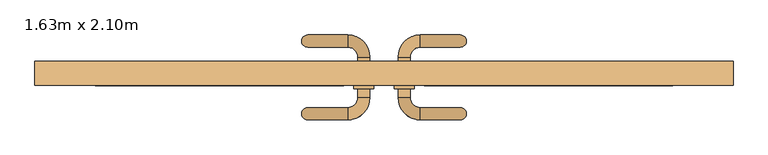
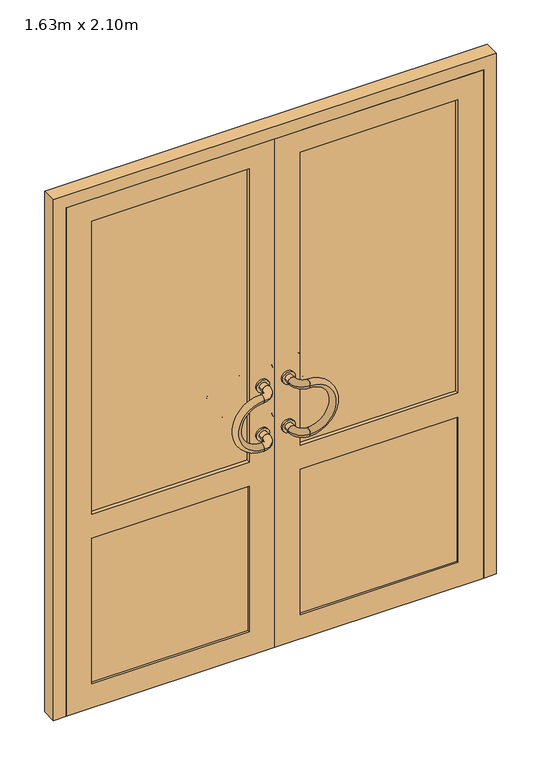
"""IFC4 building model written with IfcOpenShell, lengths in millimetres: door geometry, PVC Double - Panneaux vitrés haut : 1.63m x 2.10m."""

import ifcopenshell
import ifcopenshell.guid

model = None  # the IFC model being written
_history = None  # IfcOwnerHistory: only IFC2X3 demands one
_inside = {}  # id of a spatial element -> (the spatial element, [elements in it])
_under = {}  # id of a project, library or spatial element -> (it, [spatial elements below it])
_declared = {}  # id of a project -> (the project, [libraries it declares])
_typed = {}  # id of a type object -> (the type object, [elements of that type])
_made_of = {}  # id of a material, layer set ... -> (it, [elements and type objects made of it])


def new_model(schema):
    """Start an empty IFC model of exactly this schema.

    Asked for "IFC4X3", IfcOpenShell would pick the latest addendum, in which some entities
    have other attributes; the version numbers below select the first issue.
    IFC2X3 requires an IfcOwnerHistory on every rooted entity: one is made here for all.
    """
    global model, _history
    if schema == "IFC4X3":
        model = ifcopenshell.file(schema_version=(4, 3, 0, 0))
    else:
        model = ifcopenshell.file(schema=schema)
    _inside.clear()
    _under.clear()
    _declared.clear()
    _typed.clear()
    _made_of.clear()
    _history = None
    if model.schema == "IFC2X3":
        org = make("IfcOrganization", Name="unknown")
        user = make(
            "IfcPersonAndOrganization",
            ThePerson=make("IfcPerson", FamilyName="unknown"),
            TheOrganization=org,
        )
        app = make(
            "IfcApplication",
            ApplicationDeveloper=org,
            Version="unknown",
            ApplicationFullName="unknown",
            ApplicationIdentifier="unknown",
        )
        _history = make(
            "IfcOwnerHistory",
            OwningUser=user,
            OwningApplication=app,
            ChangeAction="ADDED",
            CreationDate=0,
        )
    return model


def make(cls, **values):
    """One entity of the class cls with the attributes given. An attribute that is None is left unset."""
    return model.create_entity(
        cls, **{name: value for name, value in values.items() if value is not None}
    )


def rooted(cls, **values):
    """An entity with a GlobalId (a new one), such as an element, a storey or a relation."""
    return make(cls, GlobalId=ifcopenshell.guid.new(), OwnerHistory=_history, **values)


def si_unit(unit_type, name, prefix=None):
    """IfcSIUnit, for example si_unit("LENGTHUNIT", "METRE", prefix="MILLI")."""
    return make("IfcSIUnit", UnitType=unit_type, Prefix=prefix, Name=name)


def assignment(units):
    """IfcUnitAssignment: the units of a project."""
    return None if units is None else make("IfcUnitAssignment", Units=units)


def point(xyz):
    """IfcCartesianPoint."""
    return None if xyz is None else make("IfcCartesianPoint", Coordinates=xyz)


def direction(xyz):
    """IfcDirection."""
    return None if xyz is None else make("IfcDirection", DirectionRatios=xyz)


def frame(location, z_axis=None, x_axis=None):
    """IfcAxis2Placement3D, a coordinate frame: its origin and axes. An axis left out is left unset."""
    return make(
        "IfcAxis2Placement3D",
        Location=point(location),
        Axis=direction(z_axis),
        RefDirection=direction(x_axis),
    )


def frame_2d(location, x_axis=None):
    """IfcAxis2Placement2D, a coordinate frame in the plane: its origin and x axis."""
    return make(
        "IfcAxis2Placement2D", Location=point(location), RefDirection=direction(x_axis)
    )


def origin():
    """The frame at (0, 0, 0) with its axes left unset."""
    return frame((0.0, 0.0, 0.0))


def place(relative_to, where):
    """IfcLocalPlacement: puts the frame where relative to a parent placement (None: the world)."""
    return make(
        "IfcLocalPlacement", PlacementRelTo=relative_to, RelativePlacement=where
    )


def context(
    kind, dimensions, precision=None, world=None, true_north=None, identifier=None
):
    """IfcGeometricRepresentationContext, for example the 3D "Model" context."""
    return make(
        "IfcGeometricRepresentationContext",
        ContextIdentifier=identifier,
        ContextType=kind,
        CoordinateSpaceDimension=dimensions,
        Precision=precision,
        WorldCoordinateSystem=world,
        TrueNorth=true_north,
    )


def project(units=None, contexts=None):
    """IfcProject with its units and contexts."""
    return rooted(
        "IfcProject",
        Name="project",
        RepresentationContexts=contexts,
        UnitsInContext=assignment(units),
    )


def spatial(cls, under=None, at=None, **own):
    """A site, building, storey or space (cls), placed at a placement, below another one or the project."""
    s = rooted(cls, ObjectPlacement=at, **own)
    if under is not None:
        _under.setdefault(under.id(), (under, []))[1].append(s)
    return s


def polyline(points):
    """IfcPolyline through the points."""
    return make("IfcPolyline", Points=[point(p) for p in points])


def circle_curve(where, radius):
    """IfcCircle in the frame where."""
    return make("IfcCircle", Position=where, Radius=radius)


def ellipse_curve(where, semi_axis1, semi_axis2):
    """IfcEllipse in the frame where."""
    return make(
        "IfcEllipse", Position=where, SemiAxis1=semi_axis1, SemiAxis2=semi_axis2
    )


def trimmed(basis, trim1, trim2, sense, master):
    """IfcTrimmedCurve: the piece of a basis curve between two trims."""
    return make(
        "IfcTrimmedCurve",
        BasisCurve=basis,
        Trim1=trim1,
        Trim2=trim2,
        SenseAgreement=sense,
        MasterRepresentation=master,
    )


def segment(curve, same_sense, transition):
    """IfcCompositeCurveSegment."""
    return make(
        "IfcCompositeCurveSegment",
        Transition=transition,
        SameSense=same_sense,
        ParentCurve=curve,
    )


def composite_curve(segments, self_intersect=None):
    """IfcCompositeCurve: segments joined end to end."""
    return make("IfcCompositeCurve", Segments=segments, SelfIntersect=self_intersect)


def outline(outer, holes=None, kind="AREA"):
    """IfcArbitraryClosedProfileDef: a profile drawn as a closed curve; with holes, ...WithVoids."""
    if holes is None:
        return make("IfcArbitraryClosedProfileDef", ProfileType=kind, OuterCurve=outer)
    return make(
        "IfcArbitraryProfileDefWithVoids",
        ProfileType=kind,
        OuterCurve=outer,
        InnerCurves=holes,
    )


def extrude(swept, where, along, depth):
    """IfcExtrudedAreaSolid: the profile swept, set in the frame where, extruded along a direction by depth."""
    return make(
        "IfcExtrudedAreaSolid",
        SweptArea=swept,
        Position=where,
        ExtrudedDirection=direction(along),
        Depth=depth,
    )


def faces_of(points, faces, orient=None, outer=None):
    """IfcFace entities. A face is a list of loops; a loop is a list of indices into points, from 0.

    orient and outer hold one flag for each loop. By default every Orientation is true, the
    first loop of a face is its IfcFaceOuterBound and the others are IfcFaceBound.
    """
    made = []
    for i, loops in enumerate(faces):
        bounds = []
        for j, loop in enumerate(loops):
            is_outer = j == 0 if outer is None else outer[i][j]
            bounds.append(
                make(
                    "IfcFaceOuterBound" if is_outer else "IfcFaceBound",
                    Bound=make("IfcPolyLoop", Polygon=[points[k] for k in loop]),
                    Orientation=True if orient is None else orient[i][j],
                )
            )
        made.append(make("IfcFace", Bounds=bounds))
    return made


def faceted_brep(points, faces, orient=None, outer=None, voids=None):
    """IfcFacetedBrep: a solid bounded by flat faces; with voids (closed shells), ...WithVoids."""
    shared = [point(p) for p in points]
    hull = make("IfcClosedShell", CfsFaces=faces_of(shared, faces, orient, outer))
    if voids is None:
        return make("IfcFacetedBrep", Outer=hull)
    return make(
        "IfcFacetedBrepWithVoids",
        Outer=hull,
        Voids=[
            make(cls, CfsFaces=faces_of(shared, fs, o, b)) for cls, fs, o, b in voids
        ],
    )


def shape(context_of_items, identifier, shape_type, items):
    """IfcShapeRepresentation: the items that make up one representation, for example the "Body"."""
    return make(
        "IfcShapeRepresentation",
        ContextOfItems=context_of_items,
        RepresentationIdentifier=identifier,
        RepresentationType=shape_type,
        Items=items,
    )


def source(mapping_origin, context_of_items, identifier, shape_type, items):
    """IfcRepresentationMap: a shape defined once, which mapped items show again and again."""
    return make(
        "IfcRepresentationMap",
        MappingOrigin=mapping_origin,
        MappedRepresentation=shape(context_of_items, identifier, shape_type, items),
    )


def transform(
    local_origin,
    x_axis=None,
    y_axis=None,
    z_axis=None,
    scale=None,
    scale2=None,
    scale3=None,
    uniform=True,
):
    """IfcCartesianTransformationOperator3D, or its non-uniform kind. x_axis, y_axis, z_axis: its Axis1, 2, 3."""
    if uniform:
        return make(
            "IfcCartesianTransformationOperator3D",
            Axis1=direction(x_axis),
            Axis2=direction(y_axis),
            LocalOrigin=point(local_origin),
            Scale=scale,
            Axis3=direction(z_axis),
        )
    return make(
        "IfcCartesianTransformationOperator3DnonUniform",
        Axis1=direction(x_axis),
        Axis2=direction(y_axis),
        LocalOrigin=point(local_origin),
        Scale=scale,
        Axis3=direction(z_axis),
        Scale2=scale2,
        Scale3=scale3,
    )


def mapped(mapping_source, mapping_target):
    """IfcMappedItem: shows the shape of a source again, moved by a transform."""
    return make(
        "IfcMappedItem", MappingSource=mapping_source, MappingTarget=mapping_target
    )


def made_of(thing, what):
    """Note that an element or type object is made of a material, layer set ...; save() writes the relation."""
    if what is not None:
        _made_of.setdefault(what.id(), (what, []))[1].append(thing)
    return thing


def element(
    cls,
    number,
    at=None,
    inside=None,
    cuts=None,
    type_object=None,
    material=None,
    context=None,
    identifier="Body",
    shape_type=None,
    held_by="IfcProductDefinitionShape",
    body=None,
    shapes=None,
    **own,
):
    """One element of the class cls, such as IfcWall. Its Tag is "e" and its number.

    at: its placement. inside: the storey or other place that contains it. cuts: it is an
    opening in that element (IfcRelVoidsElement). A single representation is given by context,
    identifier, shape_type and body (its items); several are given by shapes. held_by: the class
    of the entity that holds the representations. save() writes the other relations.
    """
    e = rooted(cls, Tag="e%d" % number, ObjectPlacement=at, **own)
    if body is not None:
        shapes = [shape(context, identifier, shape_type, body)]
    if shapes is not None:
        e.Representation = make(held_by, Representations=shapes)
    if inside is not None:
        _inside.setdefault(inside.id(), (inside, []))[1].append(e)
    if cuts is not None:
        rooted(
            "IfcRelVoidsElement", RelatingBuildingElement=cuts, RelatedOpeningElement=e
        )
    if type_object is not None:
        _typed.setdefault(type_object.id(), (type_object, []))[1].append(e)
    return made_of(e, material)


def aggregate(whole, parts):
    """IfcRelAggregates: a whole, such as a stair, and the parts it consists of."""
    return rooted("IfcRelAggregates", RelatingObject=whole, RelatedObjects=parts)


def save(model, path):
    """Write the relations noted so far, then the file.

    IfcRelAggregates (storeys below a building ...), IfcRelContainedInSpatialStructure (elements
    in a storey), IfcRelDefinesByType, IfcRelAssociatesMaterial and IfcRelDeclares: one each for
    every whole, place, type object, material and project.
    """
    for whole, parts in _under.values():
        aggregate(whole, parts)
    for where, things in _inside.values():
        rooted(
            "IfcRelContainedInSpatialStructure",
            RelatedElements=things,
            RelatingStructure=where,
        )
    for kind, things in _typed.values():
        rooted("IfcRelDefinesByType", RelatedObjects=things, RelatingType=kind)
    for what, things in _made_of.values():
        rooted("IfcRelAssociatesMaterial", RelatedObjects=things, RelatingMaterial=what)
    for by, libraries in _declared.values():
        rooted("IfcRelDeclares", RelatingContext=by, RelatedDefinitions=libraries)
    model.write(path)


def plane_surface(at):
    """IfcPlane: the flat surface through the origin of the frame at, square to its z axis."""
    return make("IfcPlane", Position=at)


def revolved_surface(curve, axis_point, axis_direction):
    """IfcSurfaceOfRevolution: the curve turned about the line through axis_point along axis_direction."""
    return make(
        "IfcSurfaceOfRevolution",
        SweptCurve=make("IfcArbitraryOpenProfileDef", ProfileType="CURVE", Curve=curve),
        AxisPosition=make("IfcAxis1Placement", Location=point(axis_point), Axis=direction(axis_direction)),
    )


def advanced_brep(points, edges, surfaces, faces):
    """IfcAdvancedBrep: a solid bounded by faces that lie on surfaces and meet in shared edges.

    An edge is (start, end): straight between two places in points (the first is 0);
    or (start, end, curve); or (start, end, curve, False) where it runs against its curve.
    A face is (place in surfaces, loops), or (place, loops, False) where it looks against
    its surface's normal. A loop lists edges by number (the first is 1), with a minus sign
    where the edge is run from its end to its start. The first loop is the outer one.
    """
    corners = [point(p) for p in points]
    vertices = [make("IfcVertexPoint", VertexGeometry=c) for c in corners]
    made = []
    for start, end, *more in edges:
        made.append(
            make(
                "IfcEdgeCurve",
                EdgeStart=vertices[start],
                EdgeEnd=vertices[end],
                EdgeGeometry=more[0] if more else make("IfcPolyline", Points=[corners[start], corners[end]]),
                SameSense=more[1] if len(more) > 1 else True,
            )
        )
    hull = []
    for where, loops, *sense in faces:
        bounds = []
        for j, loop in enumerate(loops):
            ring = [make("IfcOrientedEdge", EdgeElement=made[abs(k) - 1], Orientation=k > 0) for k in loop]
            bounds.append(
                make(
                    "IfcFaceOuterBound" if j == 0 else "IfcFaceBound",
                    Bound=make("IfcEdgeLoop", EdgeList=ring),
                    Orientation=True,
                )
            )
        hull.append(make("IfcAdvancedFace", Bounds=bounds, FaceSurface=surfaces[where], SameSense=sense[0] if sense else True))
    return make("IfcAdvancedBrep", Outer=make("IfcClosedShell", CfsFaces=hull))


def door_1_63m_x_2_10m_9fa24bd7(model_context):
    return source(origin(), model_context, "Body", "SolidModel", [
        extrude(outline(composite_curve([segment(trimmed(circle_curve(frame_2d((1100.0, -50.0)), 25.0), [point((1100.0, -25.0))], [point((1100.0, -75.0))], False, "CARTESIAN"), True, "CONTINUOUS"), segment(trimmed(circle_curve(frame_2d((1100.0, -50.0)), 25.0), [point((1100.0, -75.0))], [point((1100.0, -25.0))], False, "CARTESIAN"), True, "CONTINUOUS")], self_intersect=False), holes=[composite_curve([segment(trimmed(circle_curve(frame_2d((1100.0, -50.0)), 15.0), [point((1100.0, -35.0))], [point((1100.0, -65.0))], True, "CARTESIAN"), True, "CONTINUOUS"), segment(trimmed(circle_curve(frame_2d((1100.0, -50.0)), 15.0), [point((1100.0, -65.0))], [point((1100.0, -35.0))], True, "CARTESIAN"), True, "CONTINUOUS")], self_intersect=False)]), frame((0.0, -95.0, 0.0), z_axis=(0.0, 1.0, 0.0), x_axis=(0.0, 0.0, 1.0)), (0.0, 0.0, 1.0), 8.0),
        extrude(outline(composite_curve([segment(trimmed(circle_curve(frame_2d((900.0, -50.0)), 25.0), [point((900.0, -25.0))], [point((900.0, -75.0))], False, "CARTESIAN"), True, "CONTINUOUS"), segment(trimmed(circle_curve(frame_2d((900.0, -50.0)), 25.0), [point((900.0, -75.0))], [point((900.0, -25.0))], False, "CARTESIAN"), True, "CONTINUOUS")], self_intersect=False), holes=[composite_curve([segment(trimmed(circle_curve(frame_2d((900.0, -50.0)), 15.0), [point((900.0, -35.0))], [point((900.0, -65.0))], True, "CARTESIAN"), True, "CONTINUOUS"), segment(trimmed(circle_curve(frame_2d((900.0, -50.0)), 15.0), [point((900.0, -65.0))], [point((900.0, -35.0))], True, "CARTESIAN"), True, "CONTINUOUS")], self_intersect=False)]), frame((0.0, -95.0, 0.0), z_axis=(0.0, 1.0, 0.0), x_axis=(0.0, 0.0, 1.0)), (0.0, 0.0, 1.0), 8.0),
        extrude(outline(composite_curve([segment(trimmed(circle_curve(frame_2d((1100.0, -50.0)), 25.0), [point((1100.0, -25.0))], [point((1100.0, -75.0))], False, "CARTESIAN"), True, "CONTINUOUS"), segment(trimmed(circle_curve(frame_2d((1100.0, -50.0)), 25.0), [point((1100.0, -75.0))], [point((1100.0, -25.0))], False, "CARTESIAN"), True, "CONTINUOUS")], self_intersect=False), holes=[composite_curve([segment(trimmed(circle_curve(frame_2d((1100.0, -50.0)), 15.0), [point((1100.0, -35.0))], [point((1100.0, -65.0))], True, "CARTESIAN"), True, "CONTINUOUS"), segment(trimmed(circle_curve(frame_2d((1100.0, -50.0)), 15.0), [point((1100.0, -65.0))], [point((1100.0, -35.0))], True, "CARTESIAN"), True, "CONTINUOUS")], self_intersect=False)]), frame((0.0, -143.0, 0.0), z_axis=(0.0, 1.0, 0.0), x_axis=(0.0, 0.0, 1.0)), (0.0, 0.0, 1.0), 8.0),
        extrude(outline(composite_curve([segment(trimmed(circle_curve(frame_2d((900.0, -50.0)), 25.0), [point((900.0, -25.0))], [point((900.0, -75.0))], False, "CARTESIAN"), True, "CONTINUOUS"), segment(trimmed(circle_curve(frame_2d((900.0, -50.0)), 25.0), [point((900.0, -75.0))], [point((900.0, -25.0))], False, "CARTESIAN"), True, "CONTINUOUS")], self_intersect=False), holes=[composite_curve([segment(trimmed(circle_curve(frame_2d((900.0, -50.0)), 15.0), [point((900.0, -35.0))], [point((900.0, -65.0))], True, "CARTESIAN"), True, "CONTINUOUS"), segment(trimmed(circle_curve(frame_2d((900.0, -50.0)), 15.0), [point((900.0, -65.0))], [point((900.0, -35.0))], True, "CARTESIAN"), True, "CONTINUOUS")], self_intersect=False)]), frame((0.0, -143.0, 0.0), z_axis=(0.0, 1.0, 0.0), x_axis=(0.0, 0.0, 1.0)), (0.0, 0.0, 1.0), 8.0),
        advanced_brep(
        [(-90.0, -10.0, 1100.0), (-90.0, -40.0, 1100.0), (-90.0, -10.0, 900.0), (-90.0, -40.0, 900.0)],
        [
            (0, 1, circle_curve(frame((-90.0, -25.0, 1100.0), z_axis=(1.0, 0.0, 0.0), x_axis=(0.0, -1.0, 0.0)), 15.0)),
            (1, 0, circle_curve(frame((-90.0, -25.0, 1100.0), z_axis=(1.0, 0.0, 0.0), x_axis=(0.0, -1.0, 0.0)), 15.0)),
            (2, 3, circle_curve(frame((-90.0, -25.0, 900.0), z_axis=(1.0, 0.0, 0.0), x_axis=(0.0, -1.0, 0.0)), 15.0)),
            (3, 2, circle_curve(frame((-90.0, -25.0, 900.0), z_axis=(1.0, 0.0, 0.0), x_axis=(0.0, -1.0, 0.0)), 15.0)),
            (2, 0, circle_curve(frame((-90.0, -10.0, 1000.0), z_axis=(0.0, 1.0, 0.0), x_axis=(0.0, 0.0, 1.0)), 100.0)),
            (1, 3, circle_curve(frame((-90.0, -40.0, 1000.0), z_axis=(0.0, -1.0, 0.0), x_axis=(0.0, 0.0, 1.0)), 100.0)),
        ],
        [
            plane_surface(frame((-90.0, -25.0, 1000.0), z_axis=(1.0, 0.0, 0.0), x_axis=(0.0, 0.0, 1.0))),
            plane_surface(frame((-90.0, -25.0, 1000.0), z_axis=(1.0, 0.0, 0.0), x_axis=(0.0, 0.0, -1.0))),
            revolved_surface(trimmed(ellipse_curve(frame((-90.0, -25.0, 1100.0), z_axis=(-1.0, 0.0, 0.0), x_axis=(0.0, -1.0, 0.0)), 15.0, 15.0), [point((-90.0, -10.0, 1100.0))], [point((-90.0, -40.0, 1100.0))], True, "CARTESIAN"), (-90.0, -25.0, 1000.0), (0.0, 1.0, 0.0)),
            revolved_surface(trimmed(ellipse_curve(frame((-90.0, -25.0, 1100.0), z_axis=(-1.0, 0.0, 0.0), x_axis=(0.0, -1.0, 0.0)), 15.0, 15.0), [point((-90.0, -40.0, 1100.0))], [point((-90.0, -10.0, 1100.0))], True, "CARTESIAN"), (-90.0, -25.0, 1000.0), (0.0, 1.0, 0.0)),
        ],
        [
            (0, [[1, 2]]),
            (1, [[3, 4]]),
            (2, [[-3, 5, -2, 6]]),
            (3, [[-4, -6, -1, -5]]),
        ],
    ),
        advanced_brep(
        [(-65.0, -65.0, 1100.0), (-35.0, -65.0, 1100.0), (-90.0, -40.0, 1100.0), (-90.0, -10.0, 1100.0)],
        [
            (0, 1, circle_curve(frame((-50.0, -65.0, 1100.0), z_axis=(0.0, -1.0, 0.0), x_axis=(1.0, 0.0, 0.0)), 15.0)),
            (1, 0, circle_curve(frame((-50.0, -65.0, 1100.0), z_axis=(0.0, -1.0, 0.0), x_axis=(1.0, 0.0, 0.0)), 15.0)),
            (2, 3, circle_curve(frame((-90.0, -25.0, 1100.0), z_axis=(-1.0, 0.0, 0.0), x_axis=(0.0, 1.0, 0.0)), 15.0)),
            (3, 2, circle_curve(frame((-90.0, -25.0, 1100.0), z_axis=(-1.0, 0.0, 0.0), x_axis=(0.0, 1.0, 0.0)), 15.0)),
            (2, 0, circle_curve(frame((-90.0, -65.0, 1100.0), z_axis=(0.0, 0.0, -1.0), x_axis=(1.0, 0.0, 0.0)), 25.0)),
            (1, 3, circle_curve(frame((-90.0, -65.0, 1100.0), z_axis=(0.0, 0.0, 1.0), x_axis=(1.0, 0.0, 0.0)), 55.0)),
        ],
        [
            plane_surface(frame((-90.0, -65.0, 1100.0), z_axis=(0.0, -1.0, 0.0), x_axis=(1.0, 0.0, 0.0))),
            plane_surface(frame((-90.0, -65.0, 1100.0), z_axis=(-1.0, 0.0, 0.0), x_axis=(0.0, 1.0, 0.0))),
            revolved_surface(trimmed(ellipse_curve(frame((-50.0, -65.0, 1100.0), z_axis=(0.0, 1.0, 0.0), x_axis=(1.0, 0.0, 0.0)), 15.0, 15.0), [point((-65.0, -65.0, 1100.0))], [point((-35.0, -65.0, 1100.0))], True, "CARTESIAN"), (-90.0, -65.0, 1100.0), (0.0, 0.0, -1.0)),
            revolved_surface(trimmed(ellipse_curve(frame((-50.0, -65.0, 1100.0), z_axis=(0.0, 1.0, 0.0), x_axis=(1.0, 0.0, 0.0)), 15.0, 15.0), [point((-35.0, -65.0, 1100.0))], [point((-65.0, -65.0, 1100.0))], True, "CARTESIAN"), (-90.0, -65.0, 1100.0), (0.0, 0.0, -1.0)),
        ],
        [
            (0, [[1, 2]]),
            (1, [[3, 4]]),
            (2, [[-3, 5, -2, 6]]),
            (3, [[-4, -6, -1, -5]]),
        ],
    ),
        advanced_brep(
        [(-65.0, -65.0, 900.0), (-35.0, -65.0, 900.0), (-90.0, -40.0, 900.0), (-90.0, -10.0, 900.0)],
        [
            (0, 1, circle_curve(frame((-50.0, -65.0, 900.0), z_axis=(0.0, -1.0, 0.0), x_axis=(1.0, 0.0, 0.0)), 15.0)),
            (1, 0, circle_curve(frame((-50.0, -65.0, 900.0), z_axis=(0.0, -1.0, 0.0), x_axis=(1.0, 0.0, 0.0)), 15.0)),
            (2, 3, circle_curve(frame((-90.0, -25.0, 900.0), z_axis=(-1.0, 0.0, 0.0), x_axis=(0.0, 1.0, 0.0)), 15.0)),
            (3, 2, circle_curve(frame((-90.0, -25.0, 900.0), z_axis=(-1.0, 0.0, 0.0), x_axis=(0.0, 1.0, 0.0)), 15.0)),
            (2, 0, circle_curve(frame((-90.0, -65.0, 900.0), z_axis=(0.0, 0.0, -1.0), x_axis=(1.0, 0.0, 0.0)), 25.0)),
            (1, 3, circle_curve(frame((-90.0, -65.0, 900.0), z_axis=(0.0, 0.0, 1.0), x_axis=(1.0, 0.0, 0.0)), 55.0)),
        ],
        [
            plane_surface(frame((-90.0, -65.0, 1100.0), z_axis=(0.0, -1.0, 0.0), x_axis=(1.0, 0.0, 0.0))),
            plane_surface(frame((-90.0, -65.0, 1100.0), z_axis=(-1.0, 0.0, 0.0), x_axis=(0.0, 1.0, 0.0))),
            revolved_surface(trimmed(ellipse_curve(frame((-50.0, -65.0, 900.0), z_axis=(0.0, 1.0, 0.0), x_axis=(1.0, 0.0, 0.0)), 15.0, 15.0), [point((-65.0, -65.0, 900.0))], [point((-35.0, -65.0, 900.0))], True, "CARTESIAN"), (-90.0, -65.0, 1100.0), (0.0, 0.0, -1.0)),
            revolved_surface(trimmed(ellipse_curve(frame((-50.0, -65.0, 900.0), z_axis=(0.0, 1.0, 0.0), x_axis=(1.0, 0.0, 0.0)), 15.0, 15.0), [point((-35.0, -65.0, 900.0))], [point((-65.0, -65.0, 900.0))], True, "CARTESIAN"), (-90.0, -65.0, 1100.0), (0.0, 0.0, -1.0)),
        ],
        [
            (0, [[1, 2]]),
            (1, [[3, 4]]),
            (2, [[-3, 5, -2, 6]]),
            (3, [[-4, -6, -1, -5]]),
        ],
    ),
        extrude(outline(composite_curve([segment(trimmed(circle_curve(frame_2d((1100.0, -50.0)), 15.0), [point((1100.0, -35.0))], [point((1100.0, -65.0))], False, "CARTESIAN"), True, "CONTINUOUS"), segment(trimmed(circle_curve(frame_2d((1100.0, -50.0)), 15.0), [point((1100.0, -65.0))], [point((1100.0, -35.0))], False, "CARTESIAN"), True, "CONTINUOUS")], self_intersect=False)), frame((0.0, -95.0, 0.0), z_axis=(0.0, 1.0, 0.0), x_axis=(0.0, 0.0, 1.0)), (0.0, 0.0, 1.0), 30.0),
        extrude(outline(composite_curve([segment(trimmed(circle_curve(frame_2d((900.0, -50.0)), 15.0), [point((900.0, -35.0))], [point((900.0, -65.0))], False, "CARTESIAN"), True, "CONTINUOUS"), segment(trimmed(circle_curve(frame_2d((900.0, -50.0)), 15.0), [point((900.0, -65.0))], [point((900.0, -35.0))], False, "CARTESIAN"), True, "CONTINUOUS")], self_intersect=False)), frame((0.0, -95.0, 0.0), z_axis=(0.0, 1.0, 0.0), x_axis=(0.0, 0.0, 1.0)), (0.0, 0.0, 1.0), 30.0),
        advanced_brep(
        [(-90.0, -190.0, 1100.0), (-90.0, -220.0, 1100.0), (-90.0, -190.0, 900.0), (-90.0, -220.0, 900.0)],
        [
            (0, 1, circle_curve(frame((-90.0, -205.0, 1100.0), z_axis=(1.0, 0.0, 0.0), x_axis=(0.0, -1.0, 0.0)), 15.0)),
            (1, 0, circle_curve(frame((-90.0, -205.0, 1100.0), z_axis=(1.0, 0.0, 0.0), x_axis=(0.0, -1.0, 0.0)), 15.0)),
            (2, 3, circle_curve(frame((-90.0, -205.0, 900.0), z_axis=(1.0, 0.0, 0.0), x_axis=(0.0, -1.0, 0.0)), 15.0)),
            (3, 2, circle_curve(frame((-90.0, -205.0, 900.0), z_axis=(1.0, 0.0, 0.0), x_axis=(0.0, -1.0, 0.0)), 15.0)),
            (2, 0, circle_curve(frame((-90.0, -190.0, 1000.0), z_axis=(0.0, 1.0, 0.0), x_axis=(0.0, 0.0, 1.0)), 100.0)),
            (1, 3, circle_curve(frame((-90.0, -220.0, 1000.0), z_axis=(0.0, -1.0, 0.0), x_axis=(0.0, 0.0, 1.0)), 100.0)),
        ],
        [
            plane_surface(frame((-90.0, -220.0, 1000.0), z_axis=(1.0, 0.0, 0.0), x_axis=(0.0, 0.0, 1.0))),
            plane_surface(frame((-90.0, -220.0, 1000.0), z_axis=(1.0, 0.0, 0.0), x_axis=(0.0, 0.0, -1.0))),
            revolved_surface(trimmed(ellipse_curve(frame((-90.0, -205.0, 1100.0), z_axis=(-1.0, 0.0, 0.0), x_axis=(0.0, -1.0, 0.0)), 15.0, 15.0), [point((-90.0, -190.0, 1100.0))], [point((-90.0, -220.0, 1100.0))], True, "CARTESIAN"), (-90.0, -220.0, 1000.0), (0.0, 1.0, 0.0)),
            revolved_surface(trimmed(ellipse_curve(frame((-90.0, -205.0, 1100.0), z_axis=(-1.0, 0.0, 0.0), x_axis=(0.0, -1.0, 0.0)), 15.0, 15.0), [point((-90.0, -220.0, 1100.0))], [point((-90.0, -190.0, 1100.0))], True, "CARTESIAN"), (-90.0, -220.0, 1000.0), (0.0, 1.0, 0.0)),
        ],
        [
            (0, [[1, 2]]),
            (1, [[3, 4]]),
            (2, [[-3, 5, -2, 6]]),
            (3, [[-4, -6, -1, -5]]),
        ],
    ),
        advanced_brep(
        [(-35.0, -165.0, 1100.0), (-65.0, -165.0, 1100.0), (-90.0, -220.0, 1100.0), (-90.0, -190.0, 1100.0)],
        [
            (0, 1, circle_curve(frame((-50.0, -165.0, 1100.0), z_axis=(0.0, 1.0, 0.0), x_axis=(-1.0, 0.0, 0.0)), 15.0)),
            (1, 0, circle_curve(frame((-50.0, -165.0, 1100.0), z_axis=(0.0, 1.0, 0.0), x_axis=(-1.0, 0.0, 0.0)), 15.0)),
            (2, 3, circle_curve(frame((-90.0, -205.0, 1100.0), z_axis=(-1.0, 0.0, 0.0), x_axis=(0.0, 1.0, 0.0)), 15.0)),
            (3, 2, circle_curve(frame((-90.0, -205.0, 1100.0), z_axis=(-1.0, 0.0, 0.0), x_axis=(0.0, 1.0, 0.0)), 15.0)),
            (2, 0, circle_curve(frame((-90.0, -165.0, 1100.0), z_axis=(0.0, 0.0, 1.0), x_axis=(1.0, 0.0, 0.0)), 55.0)),
            (1, 3, circle_curve(frame((-90.0, -165.0, 1100.0), z_axis=(0.0, 0.0, -1.0), x_axis=(1.0, 0.0, 0.0)), 25.0)),
        ],
        [
            plane_surface(frame((-90.0, -165.0, 1100.0), z_axis=(0.0, 1.0, 0.0), x_axis=(1.0, 0.0, 0.0))),
            plane_surface(frame((-90.0, -165.0, 1100.0), z_axis=(-1.0, 0.0, 0.0), x_axis=(0.0, -1.0, 0.0))),
            revolved_surface(trimmed(ellipse_curve(frame((-50.0, -165.0, 1100.0), z_axis=(0.0, -1.0, 0.0), x_axis=(-1.0, 0.0, 0.0)), 15.0, 15.0), [point((-35.0, -165.0, 1100.0))], [point((-65.0, -165.0, 1100.0))], True, "CARTESIAN"), (-90.0, -165.0, 1100.0), (0.0, 0.0, 1.0)),
            revolved_surface(trimmed(ellipse_curve(frame((-50.0, -165.0, 1100.0), z_axis=(0.0, -1.0, 0.0), x_axis=(-1.0, 0.0, 0.0)), 15.0, 15.0), [point((-65.0, -165.0, 1100.0))], [point((-35.0, -165.0, 1100.0))], True, "CARTESIAN"), (-90.0, -165.0, 1100.0), (0.0, 0.0, 1.0)),
        ],
        [
            (0, [[1, 2]]),
            (1, [[3, 4]]),
            (2, [[-3, 5, -2, 6]]),
            (3, [[-4, -6, -1, -5]]),
        ],
    ),
        advanced_brep(
        [(-35.0, -165.0, 900.0), (-65.0, -165.0, 900.0), (-90.0, -220.0, 900.0), (-90.0, -190.0, 900.0)],
        [
            (0, 1, circle_curve(frame((-50.0, -165.0, 900.0), z_axis=(0.0, 1.0, 0.0), x_axis=(-1.0, 0.0, 0.0)), 15.0)),
            (1, 0, circle_curve(frame((-50.0, -165.0, 900.0), z_axis=(0.0, 1.0, 0.0), x_axis=(-1.0, 0.0, 0.0)), 15.0)),
            (2, 3, circle_curve(frame((-90.0, -205.0, 900.0), z_axis=(-1.0, 0.0, 0.0), x_axis=(0.0, 1.0, 0.0)), 15.0)),
            (3, 2, circle_curve(frame((-90.0, -205.0, 900.0), z_axis=(-1.0, 0.0, 0.0), x_axis=(0.0, 1.0, 0.0)), 15.0)),
            (2, 0, circle_curve(frame((-90.0, -165.0, 900.0), z_axis=(0.0, 0.0, 1.0), x_axis=(1.0, 0.0, 0.0)), 55.0)),
            (1, 3, circle_curve(frame((-90.0, -165.0, 900.0), z_axis=(0.0, 0.0, -1.0), x_axis=(1.0, 0.0, 0.0)), 25.0)),
        ],
        [
            plane_surface(frame((-90.0, -165.0, 1100.0), z_axis=(0.0, 1.0, 0.0), x_axis=(1.0, 0.0, 0.0))),
            plane_surface(frame((-90.0, -165.0, 1100.0), z_axis=(-1.0, 0.0, 0.0), x_axis=(0.0, -1.0, 0.0))),
            revolved_surface(trimmed(ellipse_curve(frame((-50.0, -165.0, 900.0), z_axis=(0.0, -1.0, 0.0), x_axis=(-1.0, 0.0, 0.0)), 15.0, 15.0), [point((-35.0, -165.0, 900.0))], [point((-65.0, -165.0, 900.0))], True, "CARTESIAN"), (-90.0, -165.0, 1100.0), (0.0, 0.0, 1.0)),
            revolved_surface(trimmed(ellipse_curve(frame((-50.0, -165.0, 900.0), z_axis=(0.0, -1.0, 0.0), x_axis=(-1.0, 0.0, 0.0)), 15.0, 15.0), [point((-65.0, -165.0, 900.0))], [point((-35.0, -165.0, 900.0))], True, "CARTESIAN"), (-90.0, -165.0, 1100.0), (0.0, 0.0, 1.0)),
        ],
        [
            (0, [[1, 2]]),
            (1, [[3, 4]]),
            (2, [[-3, 5, -2, 6]]),
            (3, [[-4, -6, -1, -5]]),
        ],
    ),
        extrude(outline(composite_curve([segment(trimmed(circle_curve(frame_2d((1100.0, -50.0)), 15.0), [point((1100.0, -35.0))], [point((1100.0, -65.0))], False, "CARTESIAN"), True, "CONTINUOUS"), segment(trimmed(circle_curve(frame_2d((1100.0, -50.0)), 15.0), [point((1100.0, -65.0))], [point((1100.0, -35.0))], False, "CARTESIAN"), True, "CONTINUOUS")], self_intersect=False)), frame((0.0, -165.0, 0.0), z_axis=(0.0, 1.0, 0.0), x_axis=(0.0, 0.0, 1.0)), (0.0, 0.0, 1.0), 30.0),
        extrude(outline(composite_curve([segment(trimmed(circle_curve(frame_2d((900.0, -50.0)), 15.0), [point((900.0, -35.0))], [point((900.0, -65.0))], False, "CARTESIAN"), True, "CONTINUOUS"), segment(trimmed(circle_curve(frame_2d((900.0, -50.0)), 15.0), [point((900.0, -65.0))], [point((900.0, -35.0))], False, "CARTESIAN"), True, "CONTINUOUS")], self_intersect=False)), frame((0.0, -165.0, 0.0), z_axis=(0.0, 1.0, 0.0), x_axis=(0.0, 0.0, 1.0)), (0.0, 0.0, 1.0), 30.0),
        extrude(outline(composite_curve([segment(trimmed(circle_curve(frame_2d((1100.0, 50.0)), 25.0), [point((1100.0, 25.0))], [point((1100.0, 75.0))], False, "CARTESIAN"), True, "CONTINUOUS"), segment(trimmed(circle_curve(frame_2d((1100.0, 50.0)), 25.0), [point((1100.0, 75.0))], [point((1100.0, 25.0))], False, "CARTESIAN"), True, "CONTINUOUS")], self_intersect=False), holes=[composite_curve([segment(trimmed(circle_curve(frame_2d((1100.0, 50.0)), 15.0), [point((1100.0, 35.0))], [point((1100.0, 65.0))], True, "CARTESIAN"), True, "CONTINUOUS"), segment(trimmed(circle_curve(frame_2d((1100.0, 50.0)), 15.0), [point((1100.0, 65.0))], [point((1100.0, 35.0))], True, "CARTESIAN"), True, "CONTINUOUS")], self_intersect=False)]), frame((0.0, -95.0, 0.0), z_axis=(0.0, 1.0, 0.0), x_axis=(0.0, 0.0, 1.0)), (0.0, 0.0, 1.0), 8.0),
        extrude(outline(composite_curve([segment(trimmed(circle_curve(frame_2d((900.0, 50.0)), 25.0), [point((900.0, 25.0))], [point((900.0, 75.0))], False, "CARTESIAN"), True, "CONTINUOUS"), segment(trimmed(circle_curve(frame_2d((900.0, 50.0)), 25.0), [point((900.0, 75.0))], [point((900.0, 25.0))], False, "CARTESIAN"), True, "CONTINUOUS")], self_intersect=False), holes=[composite_curve([segment(trimmed(circle_curve(frame_2d((900.0, 50.0)), 15.0), [point((900.0, 35.0))], [point((900.0, 65.0))], True, "CARTESIAN"), True, "CONTINUOUS"), segment(trimmed(circle_curve(frame_2d((900.0, 50.0)), 15.0), [point((900.0, 65.0))], [point((900.0, 35.0))], True, "CARTESIAN"), True, "CONTINUOUS")], self_intersect=False)]), frame((0.0, -95.0, 0.0), z_axis=(0.0, 1.0, 0.0), x_axis=(0.0, 0.0, 1.0)), (0.0, 0.0, 1.0), 8.0),
        extrude(outline(composite_curve([segment(trimmed(circle_curve(frame_2d((1100.0, 50.0)), 25.0), [point((1100.0, 25.0))], [point((1100.0, 75.0))], False, "CARTESIAN"), True, "CONTINUOUS"), segment(trimmed(circle_curve(frame_2d((1100.0, 50.0)), 25.0), [point((1100.0, 75.0))], [point((1100.0, 25.0))], False, "CARTESIAN"), True, "CONTINUOUS")], self_intersect=False), holes=[composite_curve([segment(trimmed(circle_curve(frame_2d((1100.0, 50.0)), 15.0), [point((1100.0, 35.0))], [point((1100.0, 65.0))], True, "CARTESIAN"), True, "CONTINUOUS"), segment(trimmed(circle_curve(frame_2d((1100.0, 50.0)), 15.0), [point((1100.0, 65.0))], [point((1100.0, 35.0))], True, "CARTESIAN"), True, "CONTINUOUS")], self_intersect=False)]), frame((0.0, -143.0, 0.0), z_axis=(0.0, 1.0, 0.0), x_axis=(0.0, 0.0, 1.0)), (0.0, 0.0, 1.0), 8.0),
        extrude(outline(composite_curve([segment(trimmed(circle_curve(frame_2d((900.0, 50.0)), 25.0), [point((900.0, 25.0))], [point((900.0, 75.0))], False, "CARTESIAN"), True, "CONTINUOUS"), segment(trimmed(circle_curve(frame_2d((900.0, 50.0)), 25.0), [point((900.0, 75.0))], [point((900.0, 25.0))], False, "CARTESIAN"), True, "CONTINUOUS")], self_intersect=False), holes=[composite_curve([segment(trimmed(circle_curve(frame_2d((900.0, 50.0)), 15.0), [point((900.0, 35.0))], [point((900.0, 65.0))], True, "CARTESIAN"), True, "CONTINUOUS"), segment(trimmed(circle_curve(frame_2d((900.0, 50.0)), 15.0), [point((900.0, 65.0))], [point((900.0, 35.0))], True, "CARTESIAN"), True, "CONTINUOUS")], self_intersect=False)]), frame((0.0, -143.0, 0.0), z_axis=(0.0, 1.0, 0.0), x_axis=(0.0, 0.0, 1.0)), (0.0, 0.0, 1.0), 8.0),
        advanced_brep(
        [(90.0, -10.0, 1100.0), (90.0, -40.0, 1100.0), (90.0, -10.0, 900.0), (90.0, -40.0, 900.0)],
        [
            (0, 1, circle_curve(frame((90.0, -25.0, 1100.0), z_axis=(-1.0, 0.0, 0.0), x_axis=(0.0, -1.0, 0.0)), 15.0)),
            (1, 0, circle_curve(frame((90.0, -25.0, 1100.0), z_axis=(-1.0, 0.0, 0.0), x_axis=(0.0, -1.0, 0.0)), 15.0)),
            (2, 3, circle_curve(frame((90.0, -25.0, 900.0), z_axis=(-1.0, 0.0, 0.0), x_axis=(0.0, -1.0, 0.0)), 15.0)),
            (3, 2, circle_curve(frame((90.0, -25.0, 900.0), z_axis=(-1.0, 0.0, 0.0), x_axis=(0.0, -1.0, 0.0)), 15.0)),
            (3, 1, circle_curve(frame((90.0, -40.0, 1000.0), z_axis=(0.0, -1.0, 0.0), x_axis=(0.0, 0.0, 1.0)), 100.0)),
            (0, 2, circle_curve(frame((90.0, -10.0, 1000.0), z_axis=(0.0, 1.0, 0.0), x_axis=(0.0, 0.0, 1.0)), 100.0)),
        ],
        [
            plane_surface(frame((90.0, -25.0, 1000.0), z_axis=(-1.0, 0.0, 0.0), x_axis=(0.0, 0.0, 1.0))),
            plane_surface(frame((90.0, -25.0, 1000.0), z_axis=(-1.0, 0.0, 0.0), x_axis=(0.0, 0.0, -1.0))),
            revolved_surface(trimmed(ellipse_curve(frame((90.0, -25.0, 1100.0), z_axis=(-1.0, 0.0, 0.0), x_axis=(0.0, -1.0, 0.0)), 15.0, 15.0), [point((90.0, -10.0, 1100.0))], [point((90.0, -40.0, 1100.0))], True, "CARTESIAN"), (90.0, -25.0, 1000.0), (0.0, 1.0, 0.0)),
            revolved_surface(trimmed(ellipse_curve(frame((90.0, -25.0, 1100.0), z_axis=(-1.0, 0.0, 0.0), x_axis=(0.0, -1.0, 0.0)), 15.0, 15.0), [point((90.0, -40.0, 1100.0))], [point((90.0, -10.0, 1100.0))], True, "CARTESIAN"), (90.0, -25.0, 1000.0), (0.0, 1.0, 0.0)),
        ],
        [
            (0, [[1, 2]]),
            (1, [[3, 4]]),
            (2, [[5, -1, 6, -4]]),
            (3, [[-6, -2, -5, -3]]),
        ],
    ),
        advanced_brep(
        [(65.0, -65.0, 1100.0), (35.0, -65.0, 1100.0), (90.0, -40.0, 1100.0), (90.0, -10.0, 1100.0)],
        [
            (0, 1, circle_curve(frame((50.0, -65.0, 1100.0), z_axis=(0.0, -1.0, 0.0), x_axis=(-1.0, 0.0, 0.0)), 15.0)),
            (1, 0, circle_curve(frame((50.0, -65.0, 1100.0), z_axis=(0.0, -1.0, 0.0), x_axis=(-1.0, 0.0, 0.0)), 15.0)),
            (2, 3, circle_curve(frame((90.0, -25.0, 1100.0), z_axis=(1.0, 0.0, 0.0), x_axis=(0.0, 1.0, 0.0)), 15.0)),
            (3, 2, circle_curve(frame((90.0, -25.0, 1100.0), z_axis=(1.0, 0.0, 0.0), x_axis=(0.0, 1.0, 0.0)), 15.0)),
            (3, 1, circle_curve(frame((90.0, -65.0, 1100.0), z_axis=(0.0, 0.0, 1.0), x_axis=(-1.0, 0.0, 0.0)), 55.0)),
            (0, 2, circle_curve(frame((90.0, -65.0, 1100.0), z_axis=(0.0, 0.0, -1.0), x_axis=(-1.0, 0.0, 0.0)), 25.0)),
        ],
        [
            plane_surface(frame((90.0, -65.0, 1100.0), z_axis=(0.0, -1.0, 0.0), x_axis=(-1.0, 0.0, 0.0))),
            plane_surface(frame((90.0, -65.0, 1100.0), z_axis=(1.0, 0.0, 0.0), x_axis=(0.0, 1.0, 0.0))),
            revolved_surface(trimmed(ellipse_curve(frame((50.0, -65.0, 1100.0), z_axis=(0.0, -1.0, 0.0), x_axis=(-1.0, 0.0, 0.0)), 15.0, 15.0), [point((65.0, -65.0, 1100.0))], [point((35.0, -65.0, 1100.0))], True, "CARTESIAN"), (90.0, -65.0, 1100.0), (0.0, 0.0, -1.0)),
            revolved_surface(trimmed(ellipse_curve(frame((50.0, -65.0, 1100.0), z_axis=(0.0, -1.0, 0.0), x_axis=(-1.0, 0.0, 0.0)), 15.0, 15.0), [point((35.0, -65.0, 1100.0))], [point((65.0, -65.0, 1100.0))], True, "CARTESIAN"), (90.0, -65.0, 1100.0), (0.0, 0.0, -1.0)),
        ],
        [
            (0, [[1, 2]]),
            (1, [[3, 4]]),
            (2, [[5, -1, 6, -4]]),
            (3, [[-6, -2, -5, -3]]),
        ],
    ),
        advanced_brep(
        [(65.0, -65.0, 900.0), (35.0, -65.0, 900.0), (90.0, -40.0, 900.0), (90.0, -10.0, 900.0)],
        [
            (0, 1, circle_curve(frame((50.0, -65.0, 900.0), z_axis=(0.0, -1.0, 0.0), x_axis=(-1.0, 0.0, 0.0)), 15.0)),
            (1, 0, circle_curve(frame((50.0, -65.0, 900.0), z_axis=(0.0, -1.0, 0.0), x_axis=(-1.0, 0.0, 0.0)), 15.0)),
            (2, 3, circle_curve(frame((90.0, -25.0, 900.0), z_axis=(1.0, 0.0, 0.0), x_axis=(0.0, 1.0, 0.0)), 15.0)),
            (3, 2, circle_curve(frame((90.0, -25.0, 900.0), z_axis=(1.0, 0.0, 0.0), x_axis=(0.0, 1.0, 0.0)), 15.0)),
            (3, 1, circle_curve(frame((90.0, -65.0, 900.0), z_axis=(0.0, 0.0, 1.0), x_axis=(-1.0, 0.0, 0.0)), 55.0)),
            (0, 2, circle_curve(frame((90.0, -65.0, 900.0), z_axis=(0.0, 0.0, -1.0), x_axis=(-1.0, 0.0, 0.0)), 25.0)),
        ],
        [
            plane_surface(frame((90.0, -65.0, 1100.0), z_axis=(0.0, -1.0, 0.0), x_axis=(-1.0, 0.0, 0.0))),
            plane_surface(frame((90.0, -65.0, 1100.0), z_axis=(1.0, 0.0, 0.0), x_axis=(0.0, 1.0, 0.0))),
            revolved_surface(trimmed(ellipse_curve(frame((50.0, -65.0, 900.0), z_axis=(0.0, -1.0, 0.0), x_axis=(-1.0, 0.0, 0.0)), 15.0, 15.0), [point((65.0, -65.0, 900.0))], [point((35.0, -65.0, 900.0))], True, "CARTESIAN"), (90.0, -65.0, 1100.0), (0.0, 0.0, -1.0)),
            revolved_surface(trimmed(ellipse_curve(frame((50.0, -65.0, 900.0), z_axis=(0.0, -1.0, 0.0), x_axis=(-1.0, 0.0, 0.0)), 15.0, 15.0), [point((35.0, -65.0, 900.0))], [point((65.0, -65.0, 900.0))], True, "CARTESIAN"), (90.0, -65.0, 1100.0), (0.0, 0.0, -1.0)),
        ],
        [
            (0, [[1, 2]]),
            (1, [[3, 4]]),
            (2, [[5, -1, 6, -4]]),
            (3, [[-6, -2, -5, -3]]),
        ],
    ),
        extrude(outline(composite_curve([segment(trimmed(circle_curve(frame_2d((1100.0, 50.0)), 15.0), [point((1100.0, 35.0))], [point((1100.0, 65.0))], False, "CARTESIAN"), True, "CONTINUOUS"), segment(trimmed(circle_curve(frame_2d((1100.0, 50.0)), 15.0), [point((1100.0, 65.0))], [point((1100.0, 35.0))], False, "CARTESIAN"), True, "CONTINUOUS")], self_intersect=False)), frame((0.0, -95.0, 0.0), z_axis=(0.0, 1.0, 0.0), x_axis=(0.0, 0.0, 1.0)), (0.0, 0.0, 1.0), 30.0),
        extrude(outline(composite_curve([segment(trimmed(circle_curve(frame_2d((900.0, 50.0)), 15.0), [point((900.0, 35.0))], [point((900.0, 65.0))], False, "CARTESIAN"), True, "CONTINUOUS"), segment(trimmed(circle_curve(frame_2d((900.0, 50.0)), 15.0), [point((900.0, 65.0))], [point((900.0, 35.0))], False, "CARTESIAN"), True, "CONTINUOUS")], self_intersect=False)), frame((0.0, -95.0, 0.0), z_axis=(0.0, 1.0, 0.0), x_axis=(0.0, 0.0, 1.0)), (0.0, 0.0, 1.0), 30.0),
        advanced_brep(
        [(90.0, -190.0, 1100.0), (90.0, -220.0, 1100.0), (90.0, -190.0, 900.0), (90.0, -220.0, 900.0)],
        [
            (0, 1, circle_curve(frame((90.0, -205.0, 1100.0), z_axis=(-1.0, 0.0, 0.0), x_axis=(0.0, -1.0, 0.0)), 15.0)),
            (1, 0, circle_curve(frame((90.0, -205.0, 1100.0), z_axis=(-1.0, 0.0, 0.0), x_axis=(0.0, -1.0, 0.0)), 15.0)),
            (2, 3, circle_curve(frame((90.0, -205.0, 900.0), z_axis=(-1.0, 0.0, 0.0), x_axis=(0.0, -1.0, 0.0)), 15.0)),
            (3, 2, circle_curve(frame((90.0, -205.0, 900.0), z_axis=(-1.0, 0.0, 0.0), x_axis=(0.0, -1.0, 0.0)), 15.0)),
            (3, 1, circle_curve(frame((90.0, -220.0, 1000.0), z_axis=(0.0, -1.0, 0.0), x_axis=(0.0, 0.0, 1.0)), 100.0)),
            (0, 2, circle_curve(frame((90.0, -190.0, 1000.0), z_axis=(0.0, 1.0, 0.0), x_axis=(0.0, 0.0, 1.0)), 100.0)),
        ],
        [
            plane_surface(frame((90.0, -220.0, 1000.0), z_axis=(-1.0, 0.0, 0.0), x_axis=(0.0, 0.0, 1.0))),
            plane_surface(frame((90.0, -220.0, 1000.0), z_axis=(-1.0, 0.0, 0.0), x_axis=(0.0, 0.0, -1.0))),
            revolved_surface(trimmed(ellipse_curve(frame((90.0, -205.0, 1100.0), z_axis=(-1.0, 0.0, 0.0), x_axis=(0.0, -1.0, 0.0)), 15.0, 15.0), [point((90.0, -190.0, 1100.0))], [point((90.0, -220.0, 1100.0))], True, "CARTESIAN"), (90.0, -220.0, 1000.0), (0.0, 1.0, 0.0)),
            revolved_surface(trimmed(ellipse_curve(frame((90.0, -205.0, 1100.0), z_axis=(-1.0, 0.0, 0.0), x_axis=(0.0, -1.0, 0.0)), 15.0, 15.0), [point((90.0, -220.0, 1100.0))], [point((90.0, -190.0, 1100.0))], True, "CARTESIAN"), (90.0, -220.0, 1000.0), (0.0, 1.0, 0.0)),
        ],
        [
            (0, [[1, 2]]),
            (1, [[3, 4]]),
            (2, [[5, -1, 6, -4]]),
            (3, [[-6, -2, -5, -3]]),
        ],
    ),
        advanced_brep(
        [(35.0, -165.0, 1100.0), (65.0, -165.0, 1100.0), (90.0, -220.0, 1100.0), (90.0, -190.0, 1100.0)],
        [
            (0, 1, circle_curve(frame((50.0, -165.0, 1100.0), z_axis=(0.0, 1.0, 0.0), x_axis=(1.0, 0.0, 0.0)), 15.0)),
            (1, 0, circle_curve(frame((50.0, -165.0, 1100.0), z_axis=(0.0, 1.0, 0.0), x_axis=(1.0, 0.0, 0.0)), 15.0)),
            (2, 3, circle_curve(frame((90.0, -205.0, 1100.0), z_axis=(1.0, 0.0, 0.0), x_axis=(0.0, 1.0, 0.0)), 15.0)),
            (3, 2, circle_curve(frame((90.0, -205.0, 1100.0), z_axis=(1.0, 0.0, 0.0), x_axis=(0.0, 1.0, 0.0)), 15.0)),
            (3, 1, circle_curve(frame((90.0, -165.0, 1100.0), z_axis=(0.0, 0.0, -1.0), x_axis=(-1.0, 0.0, 0.0)), 25.0)),
            (0, 2, circle_curve(frame((90.0, -165.0, 1100.0), z_axis=(0.0, 0.0, 1.0), x_axis=(-1.0, 0.0, 0.0)), 55.0)),
        ],
        [
            plane_surface(frame((90.0, -165.0, 1100.0), z_axis=(0.0, 1.0, 0.0), x_axis=(-1.0, 0.0, 0.0))),
            plane_surface(frame((90.0, -165.0, 1100.0), z_axis=(1.0, 0.0, 0.0), x_axis=(0.0, -1.0, 0.0))),
            revolved_surface(trimmed(ellipse_curve(frame((50.0, -165.0, 1100.0), z_axis=(0.0, 1.0, 0.0), x_axis=(1.0, 0.0, 0.0)), 15.0, 15.0), [point((35.0, -165.0, 1100.0))], [point((65.0, -165.0, 1100.0))], True, "CARTESIAN"), (90.0, -165.0, 1100.0), (0.0, 0.0, 1.0)),
            revolved_surface(trimmed(ellipse_curve(frame((50.0, -165.0, 1100.0), z_axis=(0.0, 1.0, 0.0), x_axis=(1.0, 0.0, 0.0)), 15.0, 15.0), [point((65.0, -165.0, 1100.0))], [point((35.0, -165.0, 1100.0))], True, "CARTESIAN"), (90.0, -165.0, 1100.0), (0.0, 0.0, 1.0)),
        ],
        [
            (0, [[1, 2]]),
            (1, [[3, 4]]),
            (2, [[5, -1, 6, -4]]),
            (3, [[-6, -2, -5, -3]]),
        ],
    ),
        advanced_brep(
        [(35.0, -165.0, 900.0), (65.0, -165.0, 900.0), (90.0, -220.0, 900.0), (90.0, -190.0, 900.0)],
        [
            (0, 1, circle_curve(frame((50.0, -165.0, 900.0), z_axis=(0.0, 1.0, 0.0), x_axis=(1.0, 0.0, 0.0)), 15.0)),
            (1, 0, circle_curve(frame((50.0, -165.0, 900.0), z_axis=(0.0, 1.0, 0.0), x_axis=(1.0, 0.0, 0.0)), 15.0)),
            (2, 3, circle_curve(frame((90.0, -205.0, 900.0), z_axis=(1.0, 0.0, 0.0), x_axis=(0.0, 1.0, 0.0)), 15.0)),
            (3, 2, circle_curve(frame((90.0, -205.0, 900.0), z_axis=(1.0, 0.0, 0.0), x_axis=(0.0, 1.0, 0.0)), 15.0)),
            (3, 1, circle_curve(frame((90.0, -165.0, 900.0), z_axis=(0.0, 0.0, -1.0), x_axis=(-1.0, 0.0, 0.0)), 25.0)),
            (0, 2, circle_curve(frame((90.0, -165.0, 900.0), z_axis=(0.0, 0.0, 1.0), x_axis=(-1.0, 0.0, 0.0)), 55.0)),
        ],
        [
            plane_surface(frame((90.0, -165.0, 1100.0), z_axis=(0.0, 1.0, 0.0), x_axis=(-1.0, 0.0, 0.0))),
            plane_surface(frame((90.0, -165.0, 1100.0), z_axis=(1.0, 0.0, 0.0), x_axis=(0.0, -1.0, 0.0))),
            revolved_surface(trimmed(ellipse_curve(frame((50.0, -165.0, 900.0), z_axis=(0.0, 1.0, 0.0), x_axis=(1.0, 0.0, 0.0)), 15.0, 15.0), [point((35.0, -165.0, 900.0))], [point((65.0, -165.0, 900.0))], True, "CARTESIAN"), (90.0, -165.0, 1100.0), (0.0, 0.0, 1.0)),
            revolved_surface(trimmed(ellipse_curve(frame((50.0, -165.0, 900.0), z_axis=(0.0, 1.0, 0.0), x_axis=(1.0, 0.0, 0.0)), 15.0, 15.0), [point((65.0, -165.0, 900.0))], [point((35.0, -165.0, 900.0))], True, "CARTESIAN"), (90.0, -165.0, 1100.0), (0.0, 0.0, 1.0)),
        ],
        [
            (0, [[1, 2]]),
            (1, [[3, 4]]),
            (2, [[5, -1, 6, -4]]),
            (3, [[-6, -2, -5, -3]]),
        ],
    ),
        extrude(outline(composite_curve([segment(trimmed(circle_curve(frame_2d((1100.0, 50.0)), 15.0), [point((1100.0, 35.0))], [point((1100.0, 65.0))], False, "CARTESIAN"), True, "CONTINUOUS"), segment(trimmed(circle_curve(frame_2d((1100.0, 50.0)), 15.0), [point((1100.0, 65.0))], [point((1100.0, 35.0))], False, "CARTESIAN"), True, "CONTINUOUS")], self_intersect=False)), frame((0.0, -165.0, 0.0), z_axis=(0.0, 1.0, 0.0), x_axis=(0.0, 0.0, 1.0)), (0.0, 0.0, 1.0), 30.0),
        extrude(outline(composite_curve([segment(trimmed(circle_curve(frame_2d((900.0, 50.0)), 15.0), [point((900.0, 35.0))], [point((900.0, 65.0))], False, "CARTESIAN"), True, "CONTINUOUS"), segment(trimmed(circle_curve(frame_2d((900.0, 50.0)), 15.0), [point((900.0, 65.0))], [point((900.0, 35.0))], False, "CARTESIAN"), True, "CONTINUOUS")], self_intersect=False)), frame((0.0, -165.0, 0.0), z_axis=(0.0, 1.0, 0.0), x_axis=(0.0, 0.0, 1.0)), (0.0, 0.0, 1.0), 30.0),
        faceted_brep([(-865.0, -135.0, 0.0), (-865.0, -75.0, 0.0), (-800.0, -75.0, 0.0), (-800.0, -95.0, 0.0), (-815.0, -95.0, 0.0), (-815.0, -135.0, 0.0), (-865.0, -135.0, 2150.0), (-865.0, -75.0, 2150.0), (865.0, -75.0, 2150.0), (865.0, -75.0, 0.0), (800.0, -75.0, 0.0), (800.0, -75.0, 2085.0), (-800.0, -75.0, 2085.0), (-800.0, -95.0, 2085.0), (800.0, -95.0, 2085.0), (800.0, -95.0, 0.0), (815.0, -95.0, 0.0), (815.0, -95.0, 2100.0), (-815.0, -95.0, 2100.0), (-815.0, -135.0, 2100.0), (815.0, -135.0, 2100.0), (815.0, -135.0, 0.0), (865.0, -135.0, 0.0), (865.0, -135.0, 2150.0)], [[[0, 1, 2, 3, 4, 5]], [[1, 0, 6, 7]], [[2, 1, 7, 8, 9, 10, 11, 12]], [[3, 2, 12, 13]], [[4, 3, 13, 14, 15, 16, 17, 18]], [[5, 4, 18, 19]], [[0, 5, 19, 20, 21, 22, 23, 6]], [[9, 8, 23, 22]], [[10, 9, 22, 21, 16, 15]], [[11, 10, 15, 14]], [[17, 16, 21, 20]], [[7, 6, 23, 8]], [[12, 11, 14, 13]], [[18, 17, 20, 19]]]),
        extrude(outline(polyline([(-100.0, -120.0), (-715.0, -120.0), (-715.0, -110.0), (-100.0, -110.0), (-100.0, -120.0)])), frame((0.0, 0.0, 800.0), z_axis=(0.0, 0.0, 1.0), x_axis=(1.0, 0.0, 0.0)), (0.0, 0.0, 1.0), 1210.0),
        extrude(outline(polyline([(715.0, -120.0), (100.0, -120.0), (100.0, -110.0), (715.0, -110.0), (715.0, -120.0)])), frame((0.0, 0.0, 800.0), z_axis=(0.0, 0.0, 1.0), x_axis=(1.0, 0.0, 0.0)), (0.0, 0.0, 1.0), 1210.0),
        faceted_brep([(815.0, -135.0, 2100.0), (0.0, -135.0, 2100.0), (0.0, -135.0, 0.0), (815.0, -135.0, 0.0), (715.0, -135.0, 2010.0), (715.0, -135.0, 800.0), (100.0, -135.0, 800.0), (100.0, -135.0, 2010.0), (715.0, -135.0, 100.0), (100.0, -135.0, 100.0), (100.0, -135.0, 700.0), (715.0, -135.0, 700.0), (815.0, -95.0, 2100.0), (815.0, -95.0, 0.0), (0.0, -95.0, 0.0), (0.0, -95.0, 2100.0), (715.0, -95.0, 2010.0), (100.0, -95.0, 2010.0), (100.0, -95.0, 800.0), (715.0, -95.0, 800.0), (100.0, -95.0, 100.0), (715.0, -95.0, 100.0), (715.0, -95.0, 700.0), (100.0, -95.0, 700.0), (715.0, -127.0, 100.0), (715.0, -127.0, 700.0), (100.0, -127.0, 700.0), (100.0, -127.0, 100.0), (100.0, -103.0, 100.0), (100.0, -103.0, 700.0), (715.0, -103.0, 700.0), (715.0, -103.0, 100.0)], [[[0, 1, 2, 3], [4, 5, 6, 7], [8, 9, 10, 11]], [[12, 13, 14, 15], [16, 17, 18, 19], [20, 21, 22, 23]], [[1, 0, 12, 15]], [[2, 1, 15, 14]], [[3, 2, 14, 13]], [[0, 3, 13, 12]], [[5, 4, 16, 19]], [[6, 5, 19, 18]], [[7, 6, 18, 17]], [[4, 7, 17, 16]], [[24, 25, 26, 27]], [[24, 27, 9, 8]], [[27, 26, 10, 9]], [[26, 25, 11, 10]], [[25, 24, 8, 11]], [[28, 29, 30, 31]], [[28, 31, 21, 20]], [[31, 30, 22, 21]], [[30, 29, 23, 22]], [[29, 28, 20, 23]]]),
        faceted_brep([(-815.0, -135.0, 2100.0), (-815.0, -135.0, 0.0), (0.0, -135.0, 0.0), (0.0, -135.0, 2100.0), (-100.0, -135.0, 2010.0), (-100.0, -135.0, 800.0), (-715.0, -135.0, 800.0), (-715.0, -135.0, 2010.0), (-100.0, -135.0, 700.0), (-100.0, -135.0, 100.0), (-715.0, -135.0, 100.0), (-715.0, -135.0, 700.0), (-815.0, -95.0, 2100.0), (0.0, -95.0, 2100.0), (0.0, -95.0, 0.0), (-815.0, -95.0, 0.0), (-100.0, -95.0, 2010.0), (-715.0, -95.0, 2010.0), (-715.0, -95.0, 800.0), (-100.0, -95.0, 800.0), (-715.0, -95.0, 100.0), (-100.0, -95.0, 100.0), (-100.0, -95.0, 700.0), (-715.0, -95.0, 700.0), (-100.0, -127.0, 700.0), (-715.0, -127.0, 700.0), (-715.0, -127.0, 100.0), (-100.0, -127.0, 100.0), (-715.0, -103.0, 100.0), (-715.0, -103.0, 700.0), (-100.0, -103.0, 700.0), (-100.0, -103.0, 100.0)], [[[0, 1, 2, 3], [4, 5, 6, 7], [8, 9, 10, 11]], [[12, 13, 14, 15], [16, 17, 18, 19], [20, 21, 22, 23]], [[1, 0, 12, 15]], [[2, 1, 15, 14]], [[3, 2, 14, 13]], [[0, 3, 13, 12]], [[5, 4, 16, 19]], [[6, 5, 19, 18]], [[7, 6, 18, 17]], [[4, 7, 17, 16]], [[24, 25, 26, 27]], [[24, 27, 9, 8]], [[27, 26, 10, 9]], [[26, 25, 11, 10]], [[25, 24, 8, 11]], [[28, 29, 30, 31]], [[28, 31, 21, 20]], [[31, 30, 22, 21]], [[30, 29, 23, 22]], [[29, 28, 20, 23]]]),
    ])


if __name__ == "__main__":
    model = new_model("IFC4")
    model_context = context("Model", 3, world=origin())
    ifc_project = project(units=[si_unit("LENGTHUNIT", "METRE", prefix="MILLI")], contexts=[model_context])
    site = spatial("IfcSite", under=ifc_project)
    building = spatial("IfcBuilding", under=site)
    placement = place(None, origin())
    door_1_63m_x_2_10m_shape = door_1_63m_x_2_10m_9fa24bd7(model_context)
    element("IfcDoor", 1, ObjectType="PVC Double - Panneaux vitrés haut : 1.63m x 2.10m", at=placement, inside=building, context=model_context, shape_type="MappedRepresentation", body=[
        mapped(door_1_63m_x_2_10m_shape, transform((0.0, 0.0, 0.0), x_axis=(1.0, 0.0, 0.0), y_axis=(0.0, 1.0, 0.0), z_axis=(0.0, 0.0, 1.0))),
    ])
    save(model, "model.ifc")
